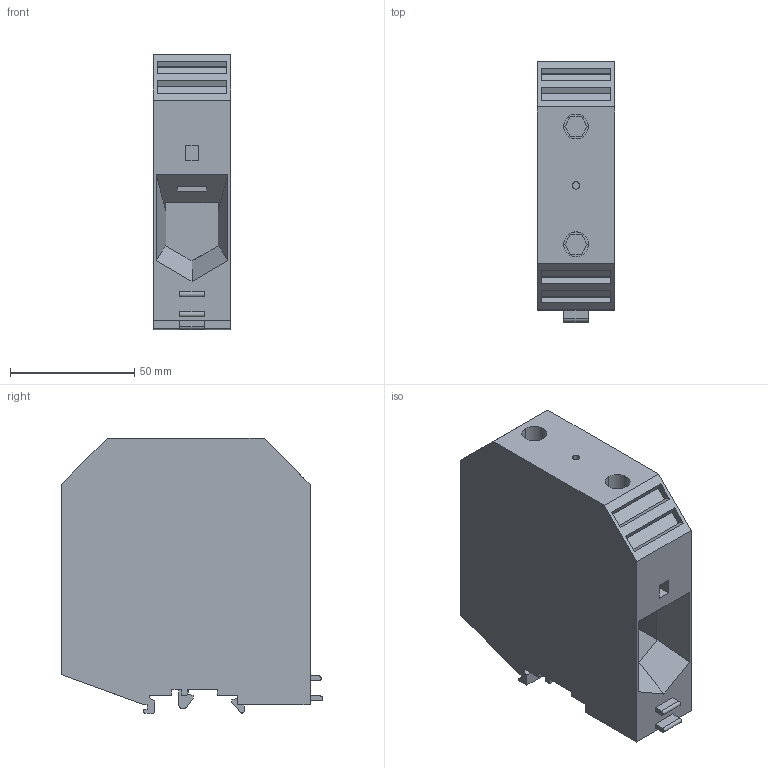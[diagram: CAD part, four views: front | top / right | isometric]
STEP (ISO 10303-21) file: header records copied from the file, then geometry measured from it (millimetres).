
FILE_DESCRIPTION(('Creo Elements/Direct Modeling STEP Export'),'2;1');
FILE_NAME('C:/Temp/JobServerData/JobServer Files/370d177a-f826-40e6-b941-1c18d5414fc5/work/output/model.stp','2023-04-21T 8:52:06',(''),(''),'Creo Elements/Direct Modeling STEP processor for AP214 (Solid Model)','Creo Elements/Direct Modeling 20.1D 10-Oct-2020 (C) Parametric Technology GmbH','');
FILE_SCHEMA(('AUTOMOTIVE_DESIGN { 1 0 10303 214 1 1 1 1 }'));
Length unit declared in the file: millimetre
Products named in the file (2): UKH_150-select
Assembly tree (1 placements, depth 2):
  UKH_150-select
    UKH_150-select
Bounding box: 31 x 105.2 x 110.84 mm (x, y, z)
Volume: 249088.3 mm3; surface area: 45831.4 mm2
Topology: 1 solids, 1 shells, 166 faces, 439 edges, 294 vertices
Faces by surface type: plane 154, cylinder 12
Entity records: 6350 total; most frequent: CARTESIAN_POINT 887, ORIENTED_EDGE 878, DIRECTION 775, EDGE_CURVE 439, VECTOR 411, LINE 411, VERTEX_POINT 294, EDGE_LOOP 185
